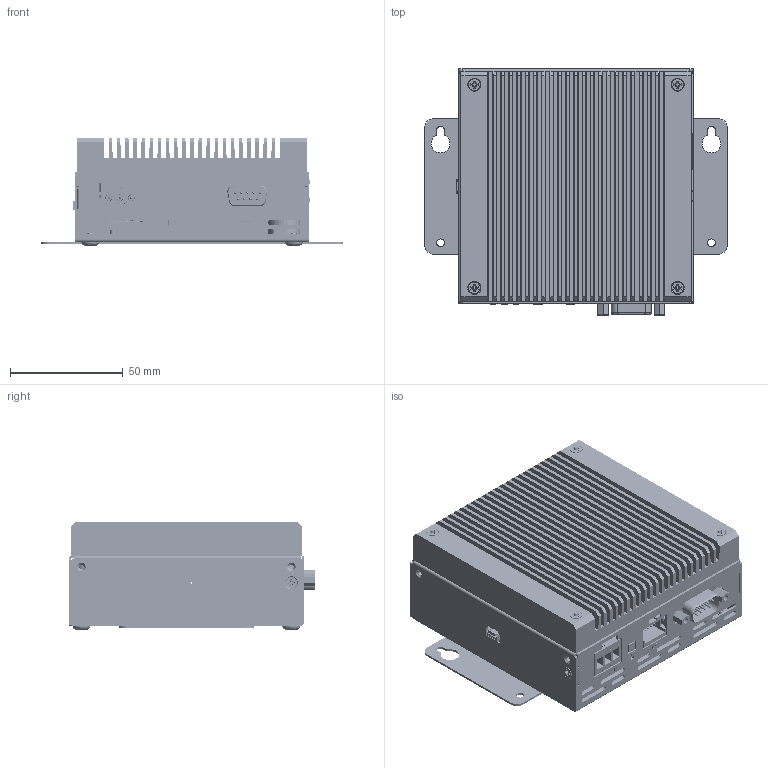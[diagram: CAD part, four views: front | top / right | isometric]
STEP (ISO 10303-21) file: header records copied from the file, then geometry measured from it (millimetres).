
FILE_DESCRIPTION((''),'2;1');
FILE_NAME('EC2A-010','2026-06-02T13:29:18',('gijyu181'),(''),'CREO PARAMETRIC BY PTC INC, 2018050','CREO PARAMETRIC BY PTC INC, 2018050','');
FILE_SCHEMA(('CONFIG_CONTROL_DESIGN','SHAPE_APPEARANCE_LAYERS_GROUPS'));
Products named in the file (1): EC2A-010
Bounding box: 134 x 108.97 x 48 mm (x, y, z)
Volume: 208981.4 mm3; surface area: 171629 mm2
Topology: 2 solids, 16 shells, 10065 faces, 30567 edges, 20196 vertices
Faces by surface type: plane 6865, cylinder 2562, extrusion 410, cone 140, bspline 65, torus 17, sphere 6
Entity records: 369884 total; most frequent: CARTESIAN_POINT 67588, ORIENTED_EDGE 61068, DIRECTION 54407, EDGE_CURVE 30547, VECTOR 24601, LINE 24191, VERTEX_POINT 20196, AXIS2_PLACEMENT_3D 14903
